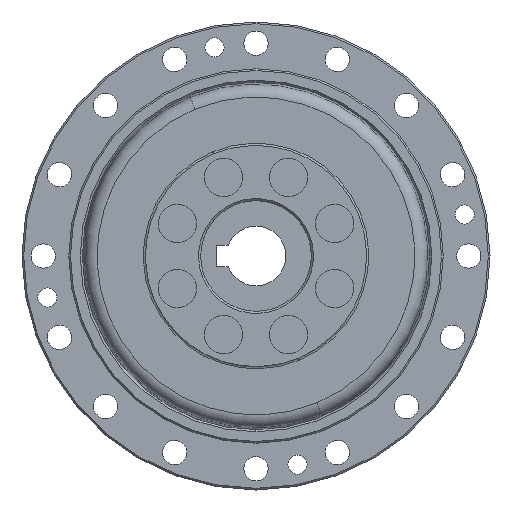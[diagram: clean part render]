
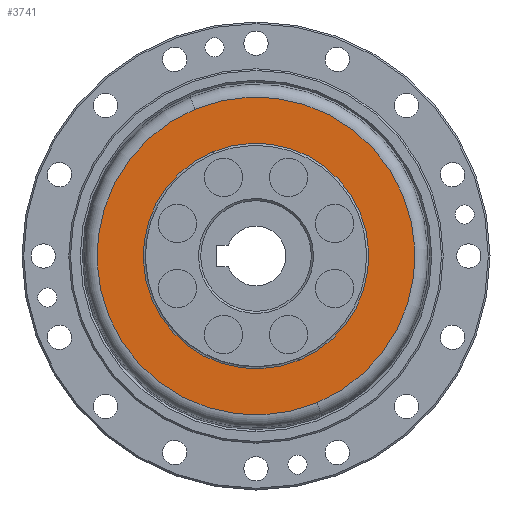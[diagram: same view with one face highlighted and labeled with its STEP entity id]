
A CAD part, left-side view. The second image highlights one B-rep face of the part: STEP entity #3741.
In plain terms, the highlighted planar face has unit normal (-1, 0, 0).
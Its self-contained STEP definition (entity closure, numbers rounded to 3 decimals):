
#165 = CIRCLE ( 'NONE', #10928, 26.5 ) ;
#324 = CIRCLE ( 'NONE', #1945, 37.373 ) ;
#497 = ORIENTED_EDGE ( 'NONE', *, *, #11355, .F. ) ;
#1450 = CIRCLE ( 'NONE', #9748, 37.373 ) ;
#1945 = AXIS2_PLACEMENT_3D ( 'NONE', #12526, #6115, #13600 ) ;
#2101 = DIRECTION ( 'NONE',  ( 1., 0., 0. ) ) ;
#2436 = DIRECTION ( 'NONE',  ( 1., 0., 0. ) ) ;
#2550 = CARTESIAN_POINT ( 'NONE',  ( 23.486, 0., -37.373 ) ) ;
#2780 = FACE_BOUND ( 'NONE', #9293, .T. ) ;
#3292 = PLANE ( 'NONE',  #9219 ) ;
#3518 = CARTESIAN_POINT ( 'NONE',  ( 23.486, 0., 0. ) ) ;
#3563 = EDGE_LOOP ( 'NONE', ( #5372, #497 ) ) ;
#3741 = ADVANCED_FACE ( 'NONE', ( #2780, #5644 ), #3292, .T. ) ;
#4371 = DIRECTION ( 'NONE',  ( 0., 0., 1. ) ) ;
#4610 = DIRECTION ( 'NONE',  ( 0., 0., -1. ) ) ;
#4806 = VERTEX_POINT ( 'NONE', #2550 ) ;
#5372 = ORIENTED_EDGE ( 'NONE', *, *, #6671, .F. ) ;
#5644 = FACE_OUTER_BOUND ( 'NONE', #3563, .T. ) ;
#6115 = DIRECTION ( 'NONE',  ( 1., 0., 0. ) ) ;
#6363 = CARTESIAN_POINT ( 'NONE',  ( 23.486, 0., 37.373 ) ) ;
#6671 = EDGE_CURVE ( 'NONE', #4806, #12493, #1450, .T. ) ;
#6985 = EDGE_CURVE ( 'NONE', #11888, #11126, #12001, .T. ) ;
#7523 = CARTESIAN_POINT ( 'NONE',  ( 23.486, 26.5, 0. ) ) ;
#7627 = ORIENTED_EDGE ( 'NONE', *, *, #10606, .T. ) ;
#8542 = CARTESIAN_POINT ( 'NONE',  ( 23.486, 0., 0. ) ) ;
#8882 = CARTESIAN_POINT ( 'NONE',  ( 23.486, 0., 0. ) ) ;
#9025 = ORIENTED_EDGE ( 'NONE', *, *, #6985, .T. ) ;
#9219 = AXIS2_PLACEMENT_3D ( 'NONE', #7523, #10785, #4371 ) ;
#9293 = EDGE_LOOP ( 'NONE', ( #9025, #7627 ) ) ;
#9607 = DIRECTION ( 'NONE',  ( 0., 0., -1. ) ) ;
#9748 = AXIS2_PLACEMENT_3D ( 'NONE', #3518, #11012, #4610 ) ;
#9938 = DIRECTION ( 'NONE',  ( 0., 0., -1. ) ) ;
#10606 = EDGE_CURVE ( 'NONE', #11126, #11888, #165, .T. ) ;
#10785 = DIRECTION ( 'NONE',  ( -1., 0., 0. ) ) ;
#10928 = AXIS2_PLACEMENT_3D ( 'NONE', #8542, #2101, #9607 ) ;
#10979 = CARTESIAN_POINT ( 'NONE',  ( 23.486, 0., 26.5 ) ) ;
#11012 = DIRECTION ( 'NONE',  ( 1., 0., 0. ) ) ;
#11126 = VERTEX_POINT ( 'NONE', #10979 ) ;
#11355 = EDGE_CURVE ( 'NONE', #12493, #4806, #324, .T. ) ;
#11888 = VERTEX_POINT ( 'NONE', #13363 ) ;
#12001 = CIRCLE ( 'NONE', #13791, 26.5 ) ;
#12493 = VERTEX_POINT ( 'NONE', #6363 ) ;
#12526 = CARTESIAN_POINT ( 'NONE',  ( 23.486, 0., 0. ) ) ;
#13363 = CARTESIAN_POINT ( 'NONE',  ( 23.486, 0., -26.5 ) ) ;
#13600 = DIRECTION ( 'NONE',  ( 0., 0., -1. ) ) ;
#13791 = AXIS2_PLACEMENT_3D ( 'NONE', #8882, #2436, #9938 ) ;
